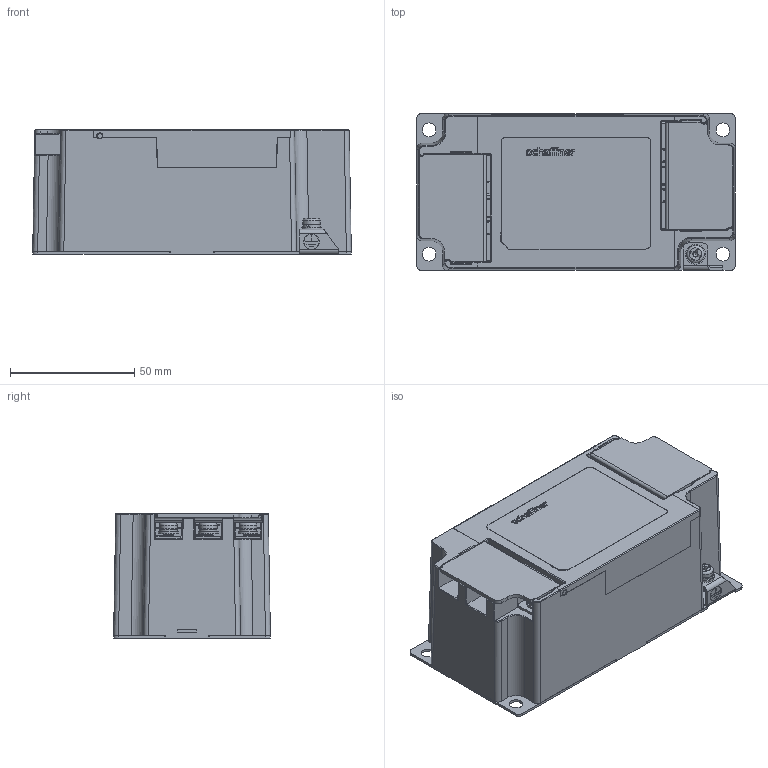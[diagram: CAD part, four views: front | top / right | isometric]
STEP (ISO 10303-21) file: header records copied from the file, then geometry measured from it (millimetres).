
FILE_DESCRIPTION(/* description */ (''),/* implementation_level */ '2;1');
FILE_NAME(/* name */ 'C:\Users\jittrapon.maneerat\Desktop\CUSTOMER STEP FILE FN30XX-MOUTING.stp',/* time_stamp */ '2023-09-29T08:15:57+07:00',/* author */ ('Jittrapon.Maneerat'),/* organization */ (''),/* preprocessor_version */ 'ST-DEVELOPER v18.1',/* originating_system */ 'Autodesk Inventor 2020',/* authorisation */ '');
FILE_SCHEMA (('AUTOMOTIVE_DESIGN { 1 0 10303 214 3 1 1 }'));
Products named in the file (14): 430831; 430804; 430804_1; 202005; 257805; 257806; 257807; 257839; 200948; 257810; 257808; 257848; 1075921_IPT_000; 200098
Assembly tree (28 placements, depth 3):
  430831
    430804
      430804_1
      202005
    257805
    257806
    257807  x2
    257839  x7
    200948  x6
    257810  x3
    257808  x2
    257848
    1075921_IPT_000
    200098
Bounding box: 128.03 x 63.03 x 50.21 mm (x, y, z)
Volume: 76705.6 mm3; surface area: 92675.6 mm2
Topology: 27 solids, 27 shells, 1903 faces, 5207 edges, 3369 vertices
Faces by surface type: plane 1030, cylinder 545, cone 143, bspline 82, sphere 64, torus 39
Full cylindrical faces by diameter (mm): 2 x3, 3.091 x63, 3.1 x7, 3.2 x1, 3.242 x7, 3.3 x1, 3.4 x1, 4.5 x6, 4.8 x6, 5.2 x1, 5.4 x1, 5.5 x4, 6.054 x1, 6.254 x1, 6.36 x1, 6.5 x1, 7 x7, 7.9 x1, 8 x7
Entity records: 51794 total; most frequent: CARTESIAN_POINT 15071, ORIENTED_EDGE 7570, DIRECTION 7533, EDGE_CURVE 3785, LINE 2631, VECTOR 2631, AXIS2_PLACEMENT_3D 2451, VERTEX_POINT 2401
